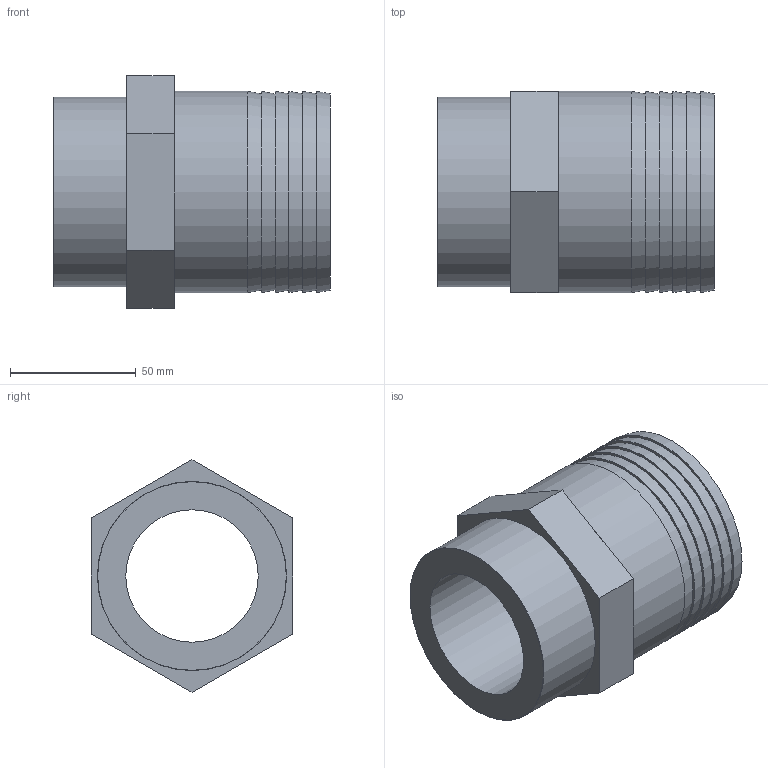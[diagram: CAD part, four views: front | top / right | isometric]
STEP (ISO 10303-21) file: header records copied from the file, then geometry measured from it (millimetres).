
FILE_DESCRIPTION(/* description */ ('PLASSON THREADED HOSE NOZZLE 2.1/2"-80'),/* implementation_level */ '2;1');
FILE_NAME(/* name */ 'C:\Dropbox\KIMPROJECTS-Inventor\99-16-3568-Processing\PVC Catalog 2017\053601\053601080025.ipt.stp',/* time_stamp */ '2017-12-07T16:03:27+02:00',/* author */ ('KIM'),/* organization */ (''),/* preprocessor_version */ 'ST-DEVELOPER v15.6',/* originating_system */ 'Autodesk Inventor 2015',/* authorisation */ '');
FILE_SCHEMA (('AUTOMOTIVE_DESIGN { 1 0 10303 214 3 1 1 }'));
Length unit declared in the file: millimetre
Products named in the file (1): 053601080025
Bounding box: 110 x 80 x 92.38 mm (x, y, z)
Volume: 302419.5 mm3; surface area: 53595.8 mm2
Topology: 1 solids, 1 shells, 30 faces, 57 edges, 35 vertices
Faces by surface type: plane 20, cone 6, cylinder 3, torus 1
Full cylindrical faces by diameter (mm): 52.629 x1, 75.184 x1, 80 x1
Entity records: 730 total; most frequent: DIRECTION 132, CARTESIAN_POINT 113, ORIENTED_EDGE 94, AXIS2_PLACEMENT_3D 54, EDGE_LOOP 48, EDGE_CURVE 47, VERTEX_POINT 35, FACE_OUTER_BOUND 30
